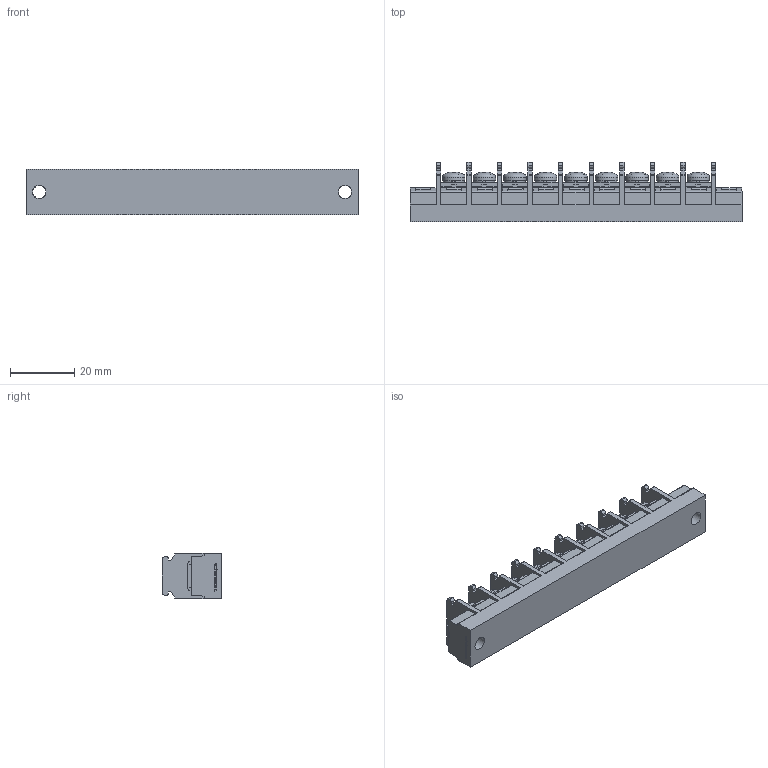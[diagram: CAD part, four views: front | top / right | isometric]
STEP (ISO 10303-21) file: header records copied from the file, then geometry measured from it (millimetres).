
FILE_DESCRIPTION(/* description */ ('Alibre Inc.'),/* implementation_level */ '2;1');
FILE_NAME(/* name */ 'export-77985D2F-57F5-46F6-BBE9-5F4058D0BA61',/* time_stamp */ '2021-02-13T15:54:04+09:00',/* author */ (''),/* organization */ (''),/* preprocessor_version */ 'ST-DEVELOPER v17',/* originating_system */ 'Alibre',/* authorisation */ '');
FILE_SCHEMA (('CONFIG_CONTROL_DESIGN'));
Length unit declared in the file: millimetre
Bounding box: 103.2 x 18.5 x 14 mm (x, y, z)
Volume: 16646.1 mm3; surface area: 10894.2 mm2
Topology: 1 solids, 26 shells, 1477 faces, 4225 edges, 2789 vertices
Faces by surface type: plane 1106, cylinder 195, bspline 104, cone 45, torus 18, sphere 9
Full cylindrical faces by diameter (mm): 4 x20, 4.2 x2, 7 x9
Entity records: 45756 total; most frequent: CARTESIAN_POINT 9379, ORIENTED_EDGE 8294, DIRECTION 5979, EDGE_CURVE 4147, VECTOR 2999, LINE 2999, VERTEX_POINT 2769, AXIS2_PLACEMENT_3D 2003
